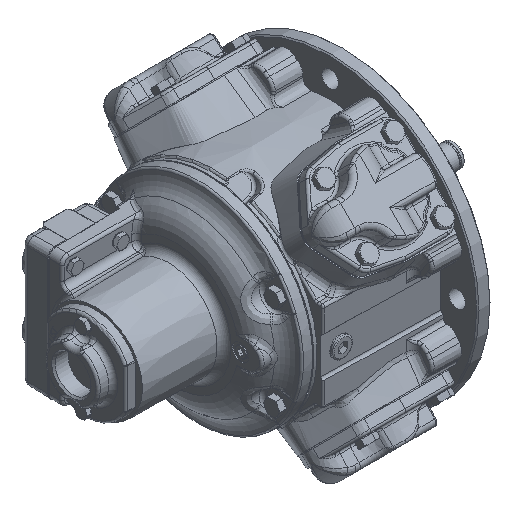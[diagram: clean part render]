
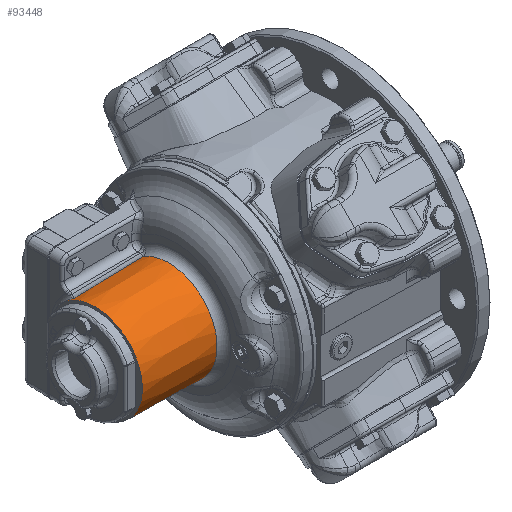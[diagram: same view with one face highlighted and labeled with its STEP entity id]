
A CAD part, isometric view. The second image highlights one B-rep face of the part: STEP entity #93448.
In plain terms, the highlighted conical face has half-angle 1 degrees and reference radius 41.136 mm.
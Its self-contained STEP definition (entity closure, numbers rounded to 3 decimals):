
#1762 = CARTESIAN_POINT ( 'NONE',  ( -95.495, 20.989, -35.379 ) ) ;
#5496 = FACE_OUTER_BOUND ( 'NONE', #76218, .T. ) ;
#5604 = CIRCLE ( 'NONE', #60827, 40.051 ) ;
#6406 = EDGE_CURVE ( 'NONE', #16010, #51313, #19417, .T. ) ;
#7586 = VERTEX_POINT ( 'NONE', #13316 ) ;
#11028 = ORIENTED_EDGE ( 'NONE', *, *, #55251, .T. ) ;
#11298 = DIRECTION ( 'NONE',  ( 1., 0., 0. ) ) ;
#13303 = EDGE_CURVE ( 'NONE', #7586, #51313, #23260, .T. ) ;
#13316 = CARTESIAN_POINT ( 'NONE',  ( -155.53, 20.651, -34.36 ) ) ;
#13571 = ORIENTED_EDGE ( 'NONE', *, *, #22131, .F. ) ;
#13592 = DIRECTION ( 'NONE',  ( 1., 0., 0. ) ) ;
#13739 = CARTESIAN_POINT ( 'NONE',  ( -95.495, 20.989, -35.379 ) ) ;
#16010 = VERTEX_POINT ( 'NONE', #81256 ) ;
#19417 = CIRCLE ( 'NONE', #73193, 41.136 ) ;
#20435 = CARTESIAN_POINT ( 'NONE',  ( -155.53, 20.651, -34.36 ) ) ;
#22131 = EDGE_CURVE ( 'NONE', #27734, #16010, #38557, .T. ) ;
#23260 = B_SPLINE_CURVE_WITH_KNOTS ( 'NONE', 3,
 ( #20435, #93095, #34905, #86350, #43081, #50778, #13739 ),
 .UNSPECIFIED., .F., .F.,
 ( 4, 3, 4 ),
 ( 0., 0.02, 0.06 ),
 .UNSPECIFIED. ) ;
#24978 = DIRECTION ( 'NONE',  ( 0., 0., -1. ) ) ;
#27194 = CARTESIAN_POINT ( 'NONE',  ( -155.53, 20.651, 34.36 ) ) ;
#27734 = VERTEX_POINT ( 'NONE', #27194 ) ;
#34905 = CARTESIAN_POINT ( 'NONE',  ( -142.199, 20.727, -34.586 ) ) ;
#36520 = DIRECTION ( 'NONE',  ( -1., 0., 0. ) ) ;
#37270 = CARTESIAN_POINT ( 'NONE',  ( -135.533, 20.764, 34.699 ) ) ;
#38557 = B_SPLINE_CURVE_WITH_KNOTS ( 'NONE', 3,
 ( #53136, #43995, #38709, #37270, #73308, #81969, #67988 ),
 .UNSPECIFIED., .F., .F.,
 ( 4, 3, 4 ),
 ( 0., 0.02, 0.06 ),
 .UNSPECIFIED. ) ;
#38709 = CARTESIAN_POINT ( 'NONE',  ( -142.199, 20.727, 34.586 ) ) ;
#39650 = ORIENTED_EDGE ( 'NONE', *, *, #6406, .F. ) ;
#40865 = DIRECTION ( 'NONE',  ( 1., 0., 0. ) ) ;
#41567 = CARTESIAN_POINT ( 'NONE',  ( -157.7, 0., 0. ) ) ;
#42941 = DIRECTION ( 'NONE',  ( 0., 0., -1. ) ) ;
#43081 = CARTESIAN_POINT ( 'NONE',  ( -122.187, 20.84, -34.926 ) ) ;
#43995 = CARTESIAN_POINT ( 'NONE',  ( -148.865, 20.689, 34.473 ) ) ;
#45405 = EDGE_CURVE ( 'NONE', #59317, #59317, #5604, .T. ) ;
#50778 = CARTESIAN_POINT ( 'NONE',  ( -108.841, 20.915, -35.152 ) ) ;
#51313 = VERTEX_POINT ( 'NONE', #1762 ) ;
#51454 = DIRECTION ( 'NONE',  ( 0., 0., 1. ) ) ;
#52258 = AXIS2_PLACEMENT_3D ( 'NONE', #58660, #36520, #51454 ) ;
#52370 = ORIENTED_EDGE ( 'NONE', *, *, #13303, .T. ) ;
#53136 = CARTESIAN_POINT ( 'NONE',  ( -155.53, 20.651, 34.36 ) ) ;
#55251 = EDGE_CURVE ( 'NONE', #27734, #7586, #93689, .T. ) ;
#57368 = FACE_BOUND ( 'NONE', #63409, .T. ) ;
#58660 = CARTESIAN_POINT ( 'NONE',  ( -155.53, 0., 0. ) ) ;
#59317 = VERTEX_POINT ( 'NONE', #94386 ) ;
#60827 = AXIS2_PLACEMENT_3D ( 'NONE', #41567, #11298, #70863 ) ;
#63218 = AXIS2_PLACEMENT_3D ( 'NONE', #71312, #13592, #42941 ) ;
#63409 = EDGE_LOOP ( 'NONE', ( #76022 ) ) ;
#67988 = CARTESIAN_POINT ( 'NONE',  ( -95.495, 20.989, 35.379 ) ) ;
#70863 = DIRECTION ( 'NONE',  ( 0., 0., 1. ) ) ;
#71312 = CARTESIAN_POINT ( 'NONE',  ( -95.495, 0., 0. ) ) ;
#72420 = CONICAL_SURFACE ( 'NONE', #63218, 41.136, 0.017 ) ;
#73193 = AXIS2_PLACEMENT_3D ( 'NONE', #83677, #40865, #24978 ) ;
#73308 = CARTESIAN_POINT ( 'NONE',  ( -122.187, 20.84, 34.926 ) ) ;
#76022 = ORIENTED_EDGE ( 'NONE', *, *, #45405, .T. ) ;
#76218 = EDGE_LOOP ( 'NONE', ( #13571, #11028, #52370, #39650 ) ) ;
#81256 = CARTESIAN_POINT ( 'NONE',  ( -95.495, 20.989, 35.379 ) ) ;
#81969 = CARTESIAN_POINT ( 'NONE',  ( -108.841, 20.915, 35.152 ) ) ;
#83677 = CARTESIAN_POINT ( 'NONE',  ( -95.495, 0., 0. ) ) ;
#86350 = CARTESIAN_POINT ( 'NONE',  ( -135.533, 20.764, -34.699 ) ) ;
#93095 = CARTESIAN_POINT ( 'NONE',  ( -148.865, 20.689, -34.473 ) ) ;
#93448 = ADVANCED_FACE ( 'NONE', ( #57368, #5496 ), #72420, .T. ) ;
#93689 = CIRCLE ( 'NONE', #52258, 40.088 ) ;
#94386 = CARTESIAN_POINT ( 'NONE',  ( -157.7, 0., 40.051 ) ) ;
